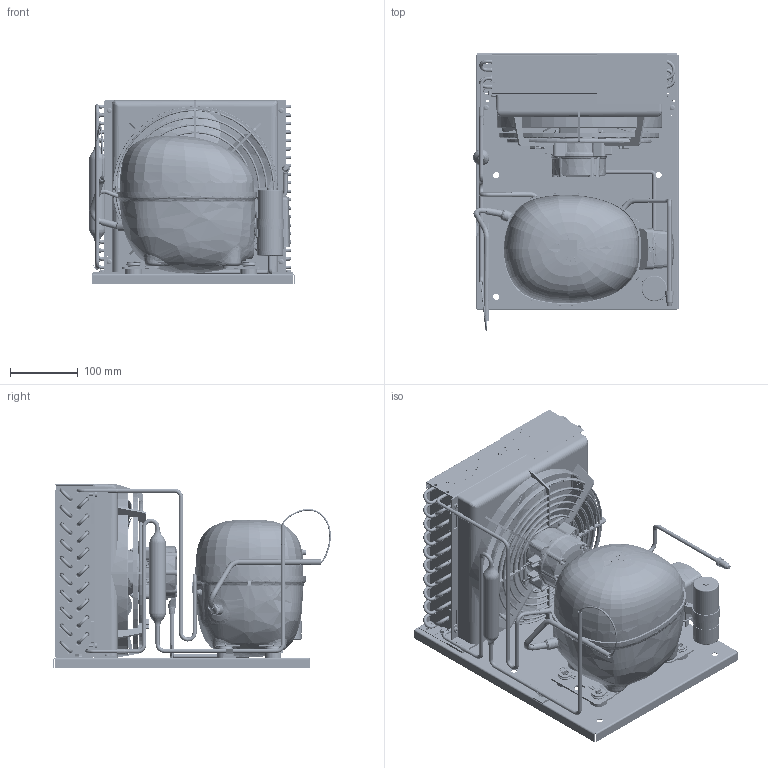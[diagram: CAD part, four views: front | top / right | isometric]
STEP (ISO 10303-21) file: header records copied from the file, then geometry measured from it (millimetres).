
FILE_DESCRIPTION(/* description */ ('Unknown'),/* implementation_level */ '2;1');
FILE_NAME(/* name */ '2298-0071',/* time_stamp */ '2022-03-23T14:28:42+01:00',/* author */ ('Unknown'),/* organization */ ('Unknown'),/* preprocessor_version */ 'ST-DEVELOPER v16.7',/* originating_system */ 'Solid Edge',/* authorisation */ 'Unknown');
FILE_SCHEMA (('AUTOMOTIVE_DESIGN {1 0 10303 214 3 1 1}'));
Products named in the file (42): 2298-0071; 92505123_oa_0; 1040240fi0_oa_1; rl5004206; rl5004207; r59500291; rl5011001; 2905051822; rl5003904; rn5003208; cg230n; 6804-0596; 7000-0293; 118-3661; a230-28; 62010150; 99000082; 118-7353; 55300397; 84RM10X21XXPIAF00; 103N2010; 9221-0002; 84dm4x3.6xxesrf00; 99000324; 99000327; 99500100_oa_2; 99540010; 6803-1592; 99000326; 99000321; 99000205; 84a4.2x9.5xtbcf01; 84fm6x8xxxxtesf00; 84DM6X5.2XXESRF00; 99100226; 680065982; GFN30_62-62; 680065977; 6803-1591; 99000082_SECOP_F-GAS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
Assembly tree (98 placements, depth 3):
  2298-0071
    92505123_oa_0
    1040240fi0_oa_1
      rl5004206
      rl5004207
      r59500291  x20
      rl5011001
      2905051822  x19
      rl5003904  x2
      rn5003208
    cg230n
    6804-0596
    7000-0293
    118-3661  x4
    a230-28
    62010150
    99000082
    118-7353  x4
    55300397
    84RM10X21XXPIAF00  x4
    103N2010
    9221-0002
    84dm4x3.6xxesrf00  x4
    99000324
    99000327
    99500100_oa_2
    99540010
    6803-1592
    99000326
    99000321
    99000205
    84a4.2x9.5xtbcf01  x6
    84fm6x8xxxxtesf00  x2
    84DM6X5.2XXESRF00  x2
    99100226
    680065982
    GFN30_62-62
    680065977
    6803-1591
    99000082_SECOP_F-GAS
    2298-0071_CAVO_VENTOLA
    2992137_oa_3
Bounding box: 304 x 410.44 x 272.3 mm (x, y, z)
Volume: 3660739.8 mm3; surface area: 1986696.8 mm2
Topology: 100 solids, 104 shells, 12107 faces, 31746 edges, 20409 vertices
Faces by surface type: plane 5684, cylinder 2434, bspline 1803, torus 1418, cone 677, sphere 91
Full cylindrical faces by diameter (mm): 1.2 x4, 1.3 x2, 1.8 x2, 1.869 x1, 1.945 x3, 1.951 x1, 2 x20, 2.2 x4, 2.27 x3, 2.277 x3, 2.45 x6, 3.14 x6, 3.2 x1, 3.242 x4, 3.375 x1, 3.5 x18, 3.6 x4, 3.962 x1, 4 x47, 4.064 x1, 4.1 x1, 4.2 x24, 4.205 x11, 4.5 x47, 5 x98, 5.2 x2, 5.222 x1, 5.48 x73, 5.5 x10, 5.9 x1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
Entity records: 556180 total; most frequent: CARTESIAN_POINT 250334, ORIENTED_EDGE 57262, DIRECTION 43313, EDGE_CURVE 28631, VERTEX_POINT 19004, AXIS2_PLACEMENT_3D 16405, EDGE_LOOP 13809, FACE_BOUND 13809
